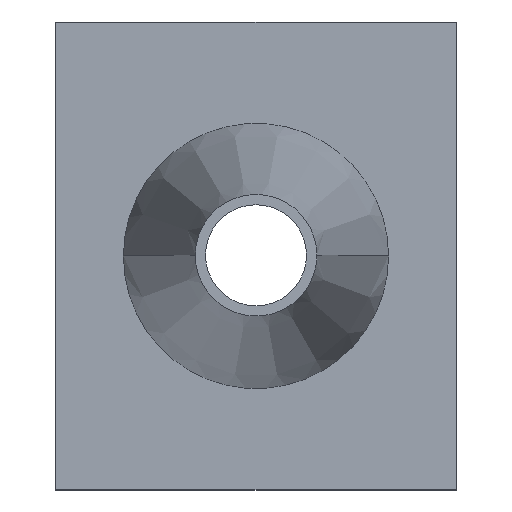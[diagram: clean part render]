
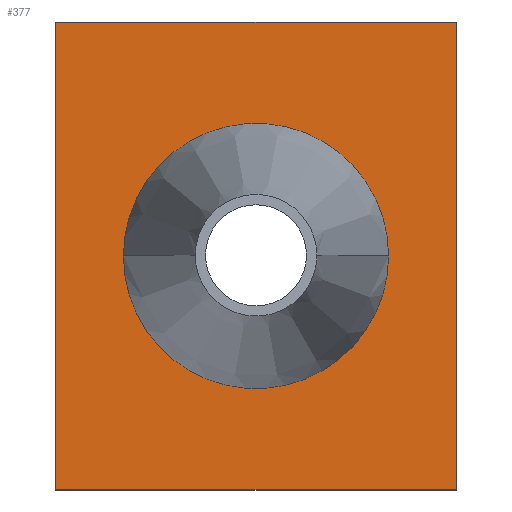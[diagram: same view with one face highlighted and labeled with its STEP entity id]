
A CAD part, top view. The second image highlights one B-rep face of the part: STEP entity #377.
In plain terms, the highlighted planar face has unit normal (0, 0, 1).
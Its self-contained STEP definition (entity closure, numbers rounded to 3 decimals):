
#167=CARTESIAN_POINT('Vertex',(0.,139.,3.)) ;
#174=CARTESIAN_POINT('Vertex',(0.,0.,3.)) ;
#177=CARTESIAN_POINT('Line Origine',(0.,69.5,3.)) ;
#198=CARTESIAN_POINT('Vertex',(119.,139.,3.)) ;
#201=CARTESIAN_POINT('Line Origine',(59.5,139.,3.)) ;
#222=CARTESIAN_POINT('Vertex',(119.,0.,3.)) ;
#225=CARTESIAN_POINT('Line Origine',(119.,69.5,3.)) ;
#242=CARTESIAN_POINT('Line Origine',(59.5,0.,3.)) ;
#324=CARTESIAN_POINT('Axis2P3D Location',(0.,0.,3.)) ;
#336=CARTESIAN_POINT('Control Point',(98.882,69.5,3.)) ;
#337=CARTESIAN_POINT('Control Point',(98.882,75.664,3.)) ;
#338=CARTESIAN_POINT('Control Point',(97.676,81.828,3.)) ;
#339=CARTESIAN_POINT('Control Point',(95.263,87.677,3.)) ;
#340=CARTESIAN_POINT('Control Point',(88.28,98.12,3.)) ;
#341=CARTESIAN_POINT('Control Point',(77.877,105.161,3.)) ;
#342=CARTESIAN_POINT('Control Point',(72.04,107.607,3.)) ;
#343=CARTESIAN_POINT('Control Point',(59.724,110.087,3.)) ;
#344=CARTESIAN_POINT('Control Point',(47.382,107.743,3.)) ;
#345=CARTESIAN_POINT('Control Point',(41.518,105.361,3.)) ;
#346=CARTESIAN_POINT('Control Point',(30.964,98.387,3.)) ;
#347=CARTESIAN_POINT('Control Point',(23.84,87.924,3.)) ;
#348=CARTESIAN_POINT('Control Point',(21.358,82.001,3.)) ;
#349=CARTESIAN_POINT('Control Point',(20.118,75.751,3.)) ;
#350=CARTESIAN_POINT('Control Point',(20.118,69.5,3.)) ;
#351=CARTESIAN_POINT('Vertex',(98.882,69.5,3.)) ;
#353=CARTESIAN_POINT('Vertex',(20.118,69.5,3.)) ;
#357=CARTESIAN_POINT('Control Point',(98.882,69.5,3.)) ;
#358=CARTESIAN_POINT('Control Point',(98.882,63.336,3.)) ;
#359=CARTESIAN_POINT('Control Point',(97.676,57.172,3.)) ;
#360=CARTESIAN_POINT('Control Point',(95.263,51.323,3.)) ;
#361=CARTESIAN_POINT('Control Point',(88.28,40.88,3.)) ;
#362=CARTESIAN_POINT('Control Point',(77.877,33.839,3.)) ;
#363=CARTESIAN_POINT('Control Point',(72.04,31.393,3.)) ;
#364=CARTESIAN_POINT('Control Point',(59.724,28.913,3.)) ;
#365=CARTESIAN_POINT('Control Point',(47.382,31.257,3.)) ;
#366=CARTESIAN_POINT('Control Point',(41.518,33.639,3.)) ;
#367=CARTESIAN_POINT('Control Point',(30.964,40.613,3.)) ;
#368=CARTESIAN_POINT('Control Point',(23.84,51.076,3.)) ;
#369=CARTESIAN_POINT('Control Point',(21.358,56.999,3.)) ;
#370=CARTESIAN_POINT('Control Point',(20.118,63.249,3.)) ;
#371=CARTESIAN_POINT('Control Point',(20.118,69.5,3.)) ;
#178=DIRECTION('Vector Direction',(0.,1.,0.)) ;
#202=DIRECTION('Vector Direction',(-1.,0.,0.)) ;
#226=DIRECTION('Vector Direction',(0.,1.,0.)) ;
#243=DIRECTION('Vector Direction',(1.,0.,0.)) ;
#325=DIRECTION('Axis2P3D Direction',(0.,0.,1.)) ;
#326=DIRECTION('Axis2P3D XDirection',(1.,0.,0.)) ;
#327=AXIS2_PLACEMENT_3D('Plane Axis2P3D',#324,#325,#326) ;
#330=ORIENTED_EDGE('',*,*,#181,.F.) ;
#331=ORIENTED_EDGE('',*,*,#246,.T.) ;
#332=ORIENTED_EDGE('',*,*,#229,.T.) ;
#333=ORIENTED_EDGE('',*,*,#205,.T.) ;
#374=ORIENTED_EDGE('',*,*,#355,.F.) ;
#375=ORIENTED_EDGE('',*,*,#372,.T.) ;
#376=FACE_BOUND('',#373,.T.) ;
#179=VECTOR('Line Direction',#178,1.) ;
#203=VECTOR('Line Direction',#202,1.) ;
#227=VECTOR('Line Direction',#226,1.) ;
#244=VECTOR('Line Direction',#243,1.) ;
#377=ADVANCED_FACE('PartBody',(#334,#376),#328,.T.) ;
#335=B_SPLINE_CURVE_WITH_KNOTS('',5,(#336,#337,#338,#339,#340,#341,#342,#343,#344,#345,#346,#347,#348,#349,#350),.UNSPECIFIED.,.F.,.U.,(6,3,3,3,6),(0.,32.979,65.962,98.945,132.389),.UNSPECIFIED.) ;
#356=B_SPLINE_CURVE_WITH_KNOTS('',5,(#357,#358,#359,#360,#361,#362,#363,#364,#365,#366,#367,#368,#369,#370,#371),.UNSPECIFIED.,.F.,.U.,(6,3,3,3,6),(0.,32.979,65.962,98.945,132.389),.UNSPECIFIED.) ;
#181=EDGE_CURVE('',#175,#168,#180,.T.) ;
#205=EDGE_CURVE('',#199,#168,#204,.T.) ;
#229=EDGE_CURVE('',#223,#199,#228,.T.) ;
#246=EDGE_CURVE('',#175,#223,#245,.T.) ;
#355=EDGE_CURVE('',#352,#354,#335,.T.) ;
#372=EDGE_CURVE('',#352,#354,#356,.T.) ;
#329=EDGE_LOOP('',(#330,#331,#332,#333)) ;
#373=EDGE_LOOP('',(#374,#375)) ;
#334=FACE_OUTER_BOUND('',#329,.T.) ;
#180=LINE('Line',#177,#179) ;
#204=LINE('Line',#201,#203) ;
#228=LINE('Line',#225,#227) ;
#245=LINE('Line',#242,#244) ;
#328=PLANE('',#327) ;
#168=VERTEX_POINT('',#167) ;
#175=VERTEX_POINT('',#174) ;
#199=VERTEX_POINT('',#198) ;
#223=VERTEX_POINT('',#222) ;
#352=VERTEX_POINT('',#351) ;
#354=VERTEX_POINT('',#353) ;
